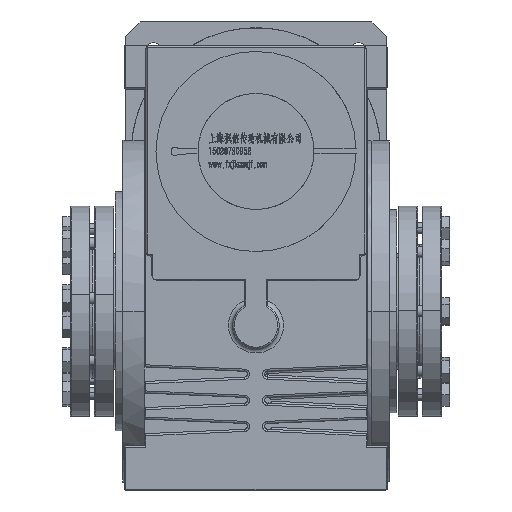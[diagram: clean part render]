
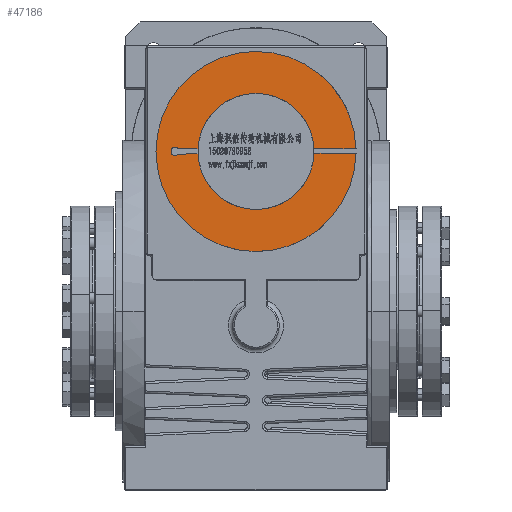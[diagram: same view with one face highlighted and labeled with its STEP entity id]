
A CAD part, top view. The second image highlights one B-rep face of the part: STEP entity #47186.
In plain terms, the highlighted planar face has unit normal (0, 0, 1).
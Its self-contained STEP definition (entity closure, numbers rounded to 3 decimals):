
#1015 = CARTESIAN_POINT ( 'NONE',  ( -53.455, 111.762, 151.75 ) ) ;
#2987 = CARTESIAN_POINT ( 'NONE',  ( 39.999, 108.585, 151.75 ) ) ;
#4077 = CARTESIAN_POINT ( 'NONE',  ( -69., 110., 151.75 ) ) ;
#7394 = CIRCLE ( 'NONE', #30223, 40.024 ) ;
#8941 = VERTEX_POINT ( 'NONE', #62354 ) ;
#9135 = VERTEX_POINT ( 'NONE', #116032 ) ;
#10993 = CARTESIAN_POINT ( 'NONE',  ( -53.455, 108.238, 151.75 ) ) ;
#16143 = DIRECTION ( 'NONE',  ( 1., 0., 0. ) ) ;
#16639 = CARTESIAN_POINT ( 'NONE',  ( 68.988, 108.693, 151.75 ) ) ;
#18523 = CARTESIAN_POINT ( 'NONE',  ( -39.985, 111.762, 151.75 ) ) ;
#20330 = DIRECTION ( 'NONE',  ( 1., 0., 0. ) ) ;
#20775 = DIRECTION ( 'NONE',  ( 1., 0., 0. ) ) ;
#21544 = AXIS2_PLACEMENT_3D ( 'NONE', #50771, #28772, #20330 ) ;
#22439 = DIRECTION ( 'NONE',  ( -1., -0.004, 0. ) ) ;
#22977 = EDGE_CURVE ( 'NONE', #60996, #42745, #35681, .T. ) ;
#23972 = CARTESIAN_POINT ( 'NONE',  ( -53.455, 111.762, 151.75 ) ) ;
#24917 = VERTEX_POINT ( 'NONE', #1015 ) ;
#26784 = EDGE_CURVE ( 'NONE', #70361, #60996, #112788, .T. ) ;
#28772 = DIRECTION ( 'NONE',  ( 0., 0., -1. ) ) ;
#29744 = CARTESIAN_POINT ( 'NONE',  ( 39.985, 111.762, 151.75 ) ) ;
#29826 = CARTESIAN_POINT ( 'NONE',  ( 0., 110., 151.75 ) ) ;
#30070 = EDGE_CURVE ( 'NONE', #42745, #82531, #49850, .T. ) ;
#30223 = AXIS2_PLACEMENT_3D ( 'NONE', #29826, #38941, #20775 ) ;
#30437 = ORIENTED_EDGE ( 'NONE', *, *, #30070, .T. ) ;
#30502 = FACE_OUTER_BOUND ( 'NONE', #40157, .T. ) ;
#33690 = EDGE_CURVE ( 'NONE', #8941, #72765, #79002, .T. ) ;
#34473 = EDGE_CURVE ( 'NONE', #9135, #70361, #68668, .T. ) ;
#34939 = DIRECTION ( 'NONE',  ( 0., 0., -1. ) ) ;
#35681 = CIRCLE ( 'NONE', #93575, 69. ) ;
#36237 = AXIS2_PLACEMENT_3D ( 'NONE', #42028, #99700, #89961 ) ;
#37661 = PLANE ( 'NONE',  #90158 ) ;
#38857 = DIRECTION ( 'NONE',  ( 1., 0., 0. ) ) ;
#38941 = DIRECTION ( 'NONE',  ( 0., 0., -1. ) ) ;
#40157 = EDGE_LOOP ( 'NONE', ( #113740, #72446, #127353, #68947, #49395, #105437, #51596, #103187, #97476, #30437 ) ) ;
#40368 = EDGE_CURVE ( 'NONE', #24917, #81618, #91357, .T. ) ;
#41752 = DIRECTION ( 'NONE',  ( 1., 0., 0. ) ) ;
#42028 = CARTESIAN_POINT ( 'NONE',  ( 0., 110., 151.75 ) ) ;
#42745 = VERTEX_POINT ( 'NONE', #16639 ) ;
#45949 = CARTESIAN_POINT ( 'NONE',  ( -55.723, 110., 151.75 ) ) ;
#47172 = EDGE_CURVE ( 'NONE', #82531, #8941, #7394, .T. ) ;
#47186 = ADVANCED_FACE ( 'NONE', ( #30502 ), #37661, .T. ) ;
#48661 = DIRECTION ( 'NONE',  ( 0., 0., 1. ) ) ;
#49395 = ORIENTED_EDGE ( 'NONE', *, *, #40368, .T. ) ;
#49850 = LINE ( 'NONE', #2987, #59167 ) ;
#50301 = DIRECTION ( 'NONE',  ( 1., 0., 0. ) ) ;
#50771 = CARTESIAN_POINT ( 'NONE',  ( 0., 110., 151.75 ) ) ;
#51596 = ORIENTED_EDGE ( 'NONE', *, *, #34473, .T. ) ;
#53405 = CARTESIAN_POINT ( 'NONE',  ( -55.723, 110., 151.75 ) ) ;
#54152 = EDGE_CURVE ( 'NONE', #102924, #24917, #83961, .T. ) ;
#55631 = AXIS2_PLACEMENT_3D ( 'NONE', #45949, #34939, #16143 ) ;
#59167 = VECTOR ( 'NONE', #22439, 1000. ) ;
#60996 = VERTEX_POINT ( 'NONE', #4077 ) ;
#62354 = CARTESIAN_POINT ( 'NONE',  ( -39.988, 108.288, 151.75 ) ) ;
#63099 = VECTOR ( 'NONE', #113372, 1000. ) ;
#68668 = LINE ( 'NONE', #29744, #94420 ) ;
#68947 = ORIENTED_EDGE ( 'NONE', *, *, #54152, .T. ) ;
#69317 = DIRECTION ( 'NONE',  ( -1., -0.004, 0. ) ) ;
#69547 = AXIS2_PLACEMENT_3D ( 'NONE', #53405, #122657, #41752 ) ;
#70361 = VERTEX_POINT ( 'NONE', #86828 ) ;
#72446 = ORIENTED_EDGE ( 'NONE', *, *, #33690, .T. ) ;
#72765 = VERTEX_POINT ( 'NONE', #100189 ) ;
#73193 = CARTESIAN_POINT ( 'NONE',  ( 39.999, 108.585, 151.75 ) ) ;
#75004 = EDGE_CURVE ( 'NONE', #72765, #102924, #115605, .T. ) ;
#77403 = CIRCLE ( 'NONE', #21544, 40.024 ) ;
#77809 = CARTESIAN_POINT ( 'NONE',  ( 0., 110., 151.75 ) ) ;
#79002 = LINE ( 'NONE', #10993, #119084 ) ;
#81618 = VERTEX_POINT ( 'NONE', #18523 ) ;
#82531 = VERTEX_POINT ( 'NONE', #73193 ) ;
#83961 = CIRCLE ( 'NONE', #69547, 2.872 ) ;
#86828 = CARTESIAN_POINT ( 'NONE',  ( 68.977, 111.762, 151.75 ) ) ;
#88161 = DIRECTION ( 'NONE',  ( 1., 0., 0. ) ) ;
#89961 = DIRECTION ( 'NONE',  ( 1., 0., 0. ) ) ;
#90158 = AXIS2_PLACEMENT_3D ( 'NONE', #77809, #48661, #88161 ) ;
#91357 = LINE ( 'NONE', #23972, #63099 ) ;
#93575 = AXIS2_PLACEMENT_3D ( 'NONE', #96992, #117681, #50301 ) ;
#94420 = VECTOR ( 'NONE', #38857, 1000. ) ;
#96992 = CARTESIAN_POINT ( 'NONE',  ( 0., 110., 151.75 ) ) ;
#97476 = ORIENTED_EDGE ( 'NONE', *, *, #22977, .T. ) ;
#98087 = CARTESIAN_POINT ( 'NONE',  ( -58.595, 110., 151.75 ) ) ;
#99700 = DIRECTION ( 'NONE',  ( 0., 0., 1. ) ) ;
#100189 = CARTESIAN_POINT ( 'NONE',  ( -53.455, 108.238, 151.75 ) ) ;
#102924 = VERTEX_POINT ( 'NONE', #98087 ) ;
#103187 = ORIENTED_EDGE ( 'NONE', *, *, #26784, .T. ) ;
#105437 = ORIENTED_EDGE ( 'NONE', *, *, #123716, .T. ) ;
#112788 = CIRCLE ( 'NONE', #36237, 69. ) ;
#113372 = DIRECTION ( 'NONE',  ( 1., 0., 0. ) ) ;
#113740 = ORIENTED_EDGE ( 'NONE', *, *, #47172, .T. ) ;
#115605 = CIRCLE ( 'NONE', #55631, 2.872 ) ;
#116032 = CARTESIAN_POINT ( 'NONE',  ( 39.985, 111.762, 151.75 ) ) ;
#117681 = DIRECTION ( 'NONE',  ( 0., 0., 1. ) ) ;
#119084 = VECTOR ( 'NONE', #69317, 1000. ) ;
#122657 = DIRECTION ( 'NONE',  ( 0., 0., -1. ) ) ;
#123716 = EDGE_CURVE ( 'NONE', #81618, #9135, #77403, .T. ) ;
#127353 = ORIENTED_EDGE ( 'NONE', *, *, #75004, .T. ) ;
